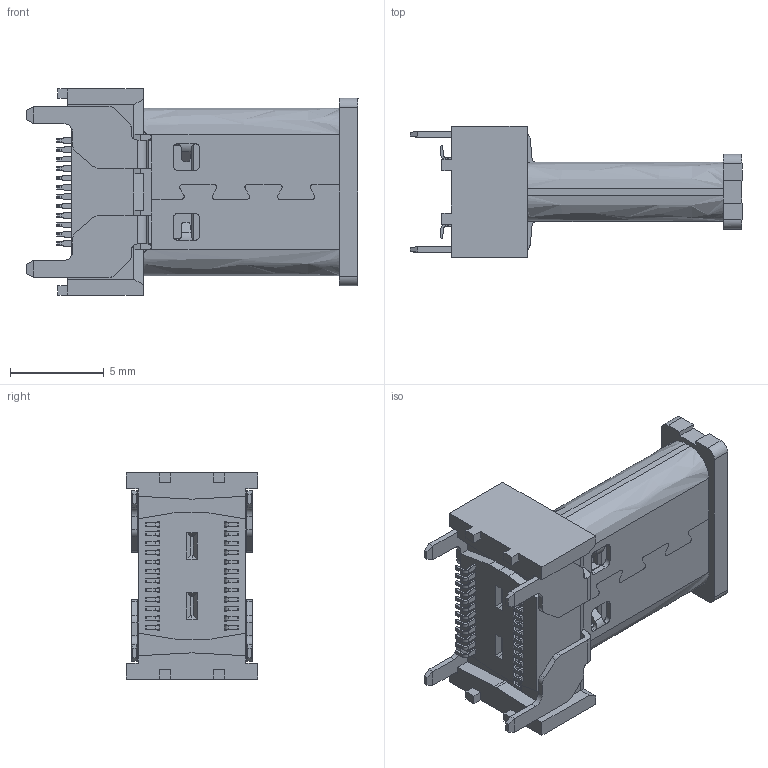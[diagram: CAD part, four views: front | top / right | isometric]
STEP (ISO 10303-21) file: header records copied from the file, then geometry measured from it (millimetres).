
FILE_DESCRIPTION((' '),'2;1');
FILE_NAME( 'U5157-24PN15.0L 24P立式四脚插板SMT 15.0L.stp', '2026-05-09T10:28:00', (' '), ('--- ---'), ' V2026.1 Dec 31 2025', ' 2026 (c)', ' ');
FILE_SCHEMA(('AP242_MANAGED_MODEL_BASED_3D_ENGINEERING_MIM_LF { 1 0 10303 442 1 1 4 }'));
Length unit declared in the file: millimetre
Products named in the file (1): U5157-24PN15.0L  24P立式四脚插板SMT 15.0L
Bounding box: 17.7 x 7 x 11 mm (x, y, z)
Volume: 487.2 mm3; surface area: 1282.9 mm2
Topology: 34 solids, 50 shells, 1631 faces, 4539 edges, 3013 vertices
Faces by surface type: plane 1247, bspline 384
Entity records: 54739 total; most frequent: CARTESIAN_POINT 16465, ORIENTED_EDGE 8926, DIRECTION 6155, EDGE_CURVE 4539, VECTOR 3657, LINE 3657, VERTEX_POINT 3013, EDGE_LOOP 1700
